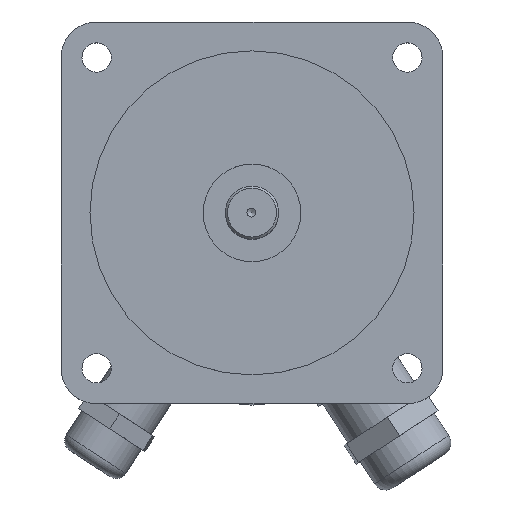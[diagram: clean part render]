
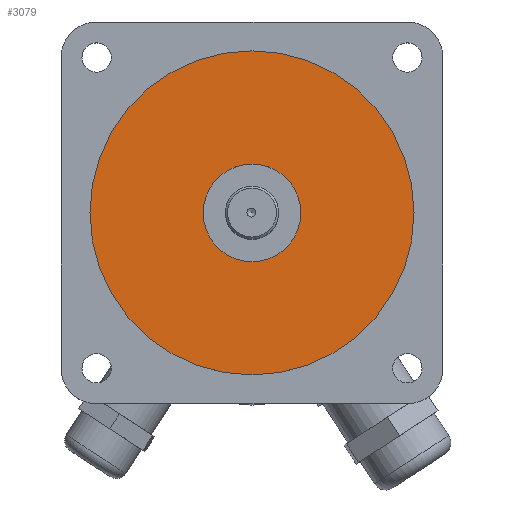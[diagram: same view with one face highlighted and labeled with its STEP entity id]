
A CAD part, top view. The second image highlights one B-rep face of the part: STEP entity #3079.
In plain terms, the highlighted planar face has unit normal (0, 0, 1).
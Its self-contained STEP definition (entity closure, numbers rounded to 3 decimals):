
#3016=CARTESIAN_POINT('',(-80.773,-89.811,117.505));
#3017=VERTEX_POINT('',#3016);
#3018=CARTESIAN_POINT('',(-69.773,-89.811,117.505));
#3019=DIRECTION('',(0.0,0.0,-1.0));
#3020=DIRECTION('',(1.0,0.0,0.0));
#3021=AXIS2_PLACEMENT_3D('',#3018,#3019,#3020);
#3022=CIRCLE('',#3021,11.0);
#3023=EDGE_CURVE('',#3017,#3017,#3022,.T.);
#3045=CARTESIAN_POINT('',(-106.273,-89.811,117.505));
#3046=VERTEX_POINT('',#3045);
#3047=CARTESIAN_POINT('',(-69.773,-89.811,117.505));
#3048=DIRECTION('',(0.0,0.0,-1.0));
#3049=DIRECTION('',(1.0,0.0,0.0));
#3050=AXIS2_PLACEMENT_3D('',#3047,#3048,#3049);
#3051=CIRCLE('',#3050,36.5);
#3052=EDGE_CURVE('',#3046,#3046,#3051,.T.);
#3068=CARTESIAN_POINT('',(-69.773,-89.811,117.505));
#3069=DIRECTION('',(0.0,0.0,-1.0));
#3070=DIRECTION('',(1.0,0.0,0.0));
#3071=AXIS2_PLACEMENT_3D('',#3068,#3069,#3070);
#3072=PLANE('',#3071);
#3073=ORIENTED_EDGE('',*,*,#3052,.F.);
#3074=EDGE_LOOP('',(#3073));
#3075=FACE_OUTER_BOUND('',#3074,.T.);
#3076=ORIENTED_EDGE('',*,*,#3023,.T.);
#3077=EDGE_LOOP('',(#3076));
#3078=FACE_BOUND('',#3077,.T.);
#3079=ADVANCED_FACE('',(#3075,#3078),#3072,.F.);
